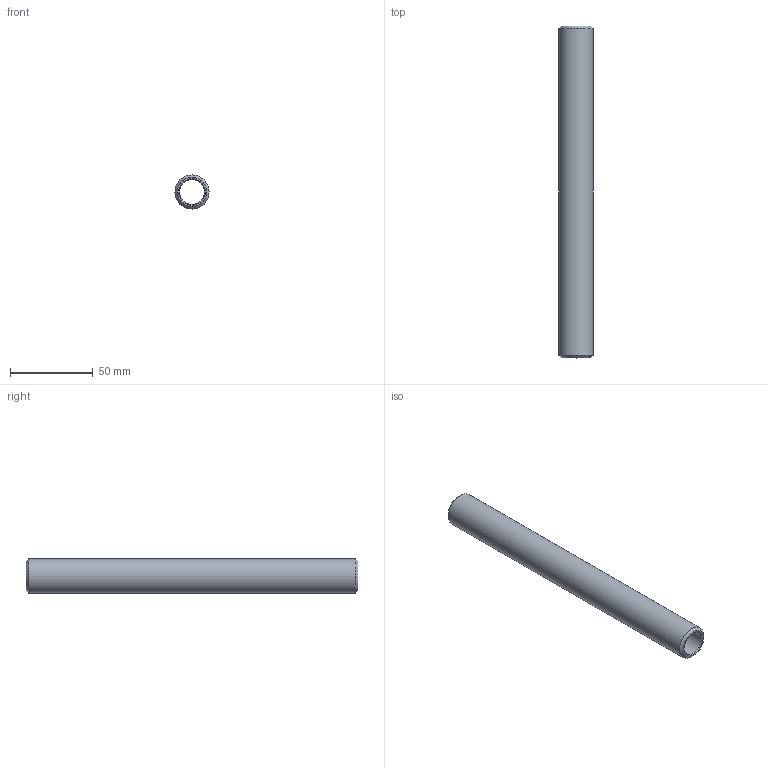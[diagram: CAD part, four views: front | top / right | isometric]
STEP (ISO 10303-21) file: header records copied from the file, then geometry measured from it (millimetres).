
FILE_DESCRIPTION(('STEP AP203'), '1');
FILE_NAME('ÂÐ.715241.006 - VTr.652.N.0420 Áî÷. ðåçüá. G1-2 L200', '2024-07-11T08:37:31', ('User'), ('Vesta'), 'C3D Converter', 'C3D Toolkit', '');
FILE_SCHEMA(('CONFIG_CONTROL_DESIGN'));
Length unit declared in the file: millimetre
Products named in the file (1): ВР.715241.006
Bounding box: 20.6 x 200 x 20.6 mm (x, y, z)
Volume: 32095.9 mm3; surface area: 22413.7 mm2
Topology: 1 solids, 1 shells, 8 faces, 14 edges, 8 vertices
Faces by surface type: cone 4, plane 2, cylinder 2
Full cylindrical faces by diameter (mm): 14.8 x1, 20.6 x1
Entity records: 199 total; most frequent: DIRECTION 34, CARTESIAN_POINT 25, AXIS2_PLACEMENT_3D 17, EDGE_LOOP 16, ORIENTED_EDGE 16, FACE_OUTER_BOUND 12, ADVANCED_FACE 8, EDGE_CURVE 8
